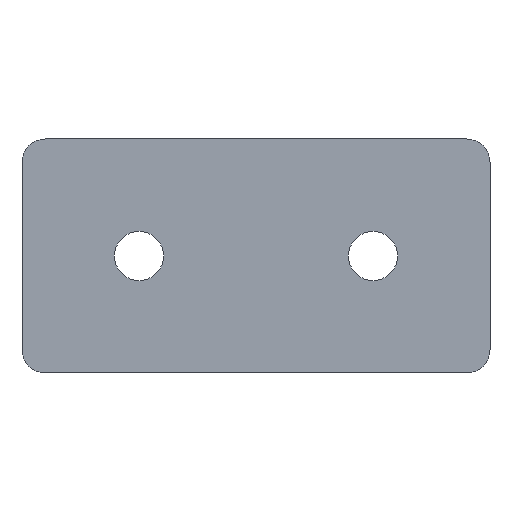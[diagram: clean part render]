
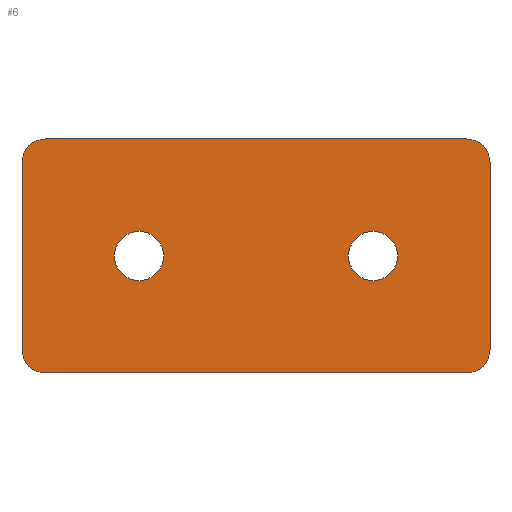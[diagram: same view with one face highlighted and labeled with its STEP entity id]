
A CAD part, front view. The second image highlights one B-rep face of the part: STEP entity #6.
In plain terms, the highlighted planar face has unit normal (0, -1, 0).
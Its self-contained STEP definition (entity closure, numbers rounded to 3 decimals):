
#1 = AXIS2_PLACEMENT_3D ( 'NONE', #63, #109, #520 ) ;
#4 = ORIENTED_EDGE ( 'NONE', *, *, #226, .F. ) ;
#6 = ADVANCED_FACE ( 'NONE', ( #590, #179, #360 ), #365, .F. ) ;
#15 = LINE ( 'NONE', #187, #562 ) ;
#16 = EDGE_CURVE ( 'NONE', #254, #351, #587, .T. ) ;
#18 = CARTESIAN_POINT ( 'NONE',  ( 15., -4., 0. ) ) ;
#19 = DIRECTION ( 'NONE',  ( 0., 1., 0. ) ) ;
#56 = AXIS2_PLACEMENT_3D ( 'NONE', #204, #565, #157 ) ;
#61 = DIRECTION ( 'NONE',  ( 0., 0., -1. ) ) ;
#63 = CARTESIAN_POINT ( 'NONE',  ( 27., -4., 12. ) ) ;
#67 = CARTESIAN_POINT ( 'NONE',  ( -30., -4., -12. ) ) ;
#74 = DIRECTION ( 'NONE',  ( 0., 0., 1. ) ) ;
#83 = CARTESIAN_POINT ( 'NONE',  ( -27., -4., 15. ) ) ;
#89 = CARTESIAN_POINT ( 'NONE',  ( -15., -4., 0. ) ) ;
#90 = VERTEX_POINT ( 'NONE', #315 ) ;
#92 = CARTESIAN_POINT ( 'NONE',  ( -27., -4., -12. ) ) ;
#102 = EDGE_CURVE ( 'NONE', #547, #393, #584, .T. ) ;
#108 = EDGE_LOOP ( 'NONE', ( #433, #585 ) ) ;
#109 = DIRECTION ( 'NONE',  ( 0., -1., 0. ) ) ;
#110 = CIRCLE ( 'NONE', #475, 3.15 ) ;
#117 = EDGE_CURVE ( 'NONE', #351, #448, #477, .T. ) ;
#129 = EDGE_LOOP ( 'NONE', ( #390, #573 ) ) ;
#133 = DIRECTION ( 'NONE',  ( 1., 0., 0. ) ) ;
#143 = DIRECTION ( 'NONE',  ( 0., -1., 0. ) ) ;
#153 = CARTESIAN_POINT ( 'NONE',  ( 15., -4., 0. ) ) ;
#157 = DIRECTION ( 'NONE',  ( 0., 0., 1. ) ) ;
#158 = ORIENTED_EDGE ( 'NONE', *, *, #312, .T. ) ;
#163 = VERTEX_POINT ( 'NONE', #553 ) ;
#171 = CIRCLE ( 'NONE', #494, 3.15 ) ;
#175 = DIRECTION ( 'NONE',  ( 0., 0., 1. ) ) ;
#177 = DIRECTION ( 'NONE',  ( 0., 0., -1. ) ) ;
#179 = FACE_BOUND ( 'NONE', #108, .T. ) ;
#184 = CARTESIAN_POINT ( 'NONE',  ( -30., -4., 15. ) ) ;
#187 = CARTESIAN_POINT ( 'NONE',  ( -30., -4., 15. ) ) ;
#191 = CIRCLE ( 'NONE', #1, 3. ) ;
#204 = CARTESIAN_POINT ( 'NONE',  ( -27., -4., 12. ) ) ;
#206 = CARTESIAN_POINT ( 'NONE',  ( -30., -4., 12. ) ) ;
#218 = AXIS2_PLACEMENT_3D ( 'NONE', #92, #143, #512 ) ;
#226 = EDGE_CURVE ( 'NONE', #513, #444, #15, .T. ) ;
#249 = VERTEX_POINT ( 'NONE', #381 ) ;
#253 = EDGE_CURVE ( 'NONE', #249, #484, #110, .T. ) ;
#254 = VERTEX_POINT ( 'NONE', #206 ) ;
#255 = AXIS2_PLACEMENT_3D ( 'NONE', #18, #339, #523 ) ;
#263 = ORIENTED_EDGE ( 'NONE', *, *, #438, .T. ) ;
#276 = DIRECTION ( 'NONE',  ( 0., -1., 0. ) ) ;
#278 = EDGE_CURVE ( 'NONE', #90, #393, #473, .T. ) ;
#281 = ORIENTED_EDGE ( 'NONE', *, *, #16, .T. ) ;
#283 = DIRECTION ( 'NONE',  ( 0., 0., 1. ) ) ;
#286 = CARTESIAN_POINT ( 'NONE',  ( 30., -4., 15. ) ) ;
#291 = VECTOR ( 'NONE', #61, 1000. ) ;
#308 = CARTESIAN_POINT ( 'NONE',  ( 15., -4., -3.15 ) ) ;
#311 = DIRECTION ( 'NONE',  ( 0., 1., 0. ) ) ;
#312 = EDGE_CURVE ( 'NONE', #513, #254, #455, .T. ) ;
#315 = CARTESIAN_POINT ( 'NONE',  ( 30., -4., 12. ) ) ;
#316 = CARTESIAN_POINT ( 'NONE',  ( -15., -4., 0. ) ) ;
#323 = CARTESIAN_POINT ( 'NONE',  ( 27., -4., -15. ) ) ;
#324 = AXIS2_PLACEMENT_3D ( 'NONE', #546, #276, #283 ) ;
#330 = EDGE_CURVE ( 'NONE', #484, #249, #515, .T. ) ;
#333 = EDGE_CURVE ( 'NONE', #90, #444, #191, .T. ) ;
#334 = DIRECTION ( 'NONE',  ( 0., 0., 1. ) ) ;
#336 = CARTESIAN_POINT ( 'NONE',  ( -15., -4., 3.15 ) ) ;
#339 = DIRECTION ( 'NONE',  ( 0., 1., 0. ) ) ;
#351 = VERTEX_POINT ( 'NONE', #67 ) ;
#353 = CARTESIAN_POINT ( 'NONE',  ( -30., -4., 15. ) ) ;
#355 = DIRECTION ( 'NONE',  ( 0., 1., 0. ) ) ;
#360 = FACE_OUTER_BOUND ( 'NONE', #490, .T. ) ;
#365 = PLANE ( 'NONE',  #508 ) ;
#371 = DIRECTION ( 'NONE',  ( 1., 0., 0. ) ) ;
#381 = CARTESIAN_POINT ( 'NONE',  ( 15., -4., 3.15 ) ) ;
#383 = VECTOR ( 'NONE', #133, 1000. ) ;
#390 = ORIENTED_EDGE ( 'NONE', *, *, #532, .T. ) ;
#393 = VERTEX_POINT ( 'NONE', #540 ) ;
#421 = EDGE_CURVE ( 'NONE', #545, #163, #171, .T. ) ;
#433 = ORIENTED_EDGE ( 'NONE', *, *, #330, .T. ) ;
#438 = EDGE_CURVE ( 'NONE', #448, #547, #580, .T. ) ;
#440 = CARTESIAN_POINT ( 'NONE',  ( -30., -4., -15. ) ) ;
#444 = VERTEX_POINT ( 'NONE', #451 ) ;
#448 = VERTEX_POINT ( 'NONE', #486 ) ;
#451 = CARTESIAN_POINT ( 'NONE',  ( 27., -4., 15. ) ) ;
#455 = CIRCLE ( 'NONE', #56, 3. ) ;
#458 = VECTOR ( 'NONE', #177, 1000. ) ;
#459 = DIRECTION ( 'NONE',  ( 0., 0., 1. ) ) ;
#463 = DIRECTION ( 'NONE',  ( 0., 1., 0. ) ) ;
#473 = LINE ( 'NONE', #286, #291 ) ;
#474 = ORIENTED_EDGE ( 'NONE', *, *, #102, .T. ) ;
#475 = AXIS2_PLACEMENT_3D ( 'NONE', #153, #19, #334 ) ;
#477 = CIRCLE ( 'NONE', #218, 3. ) ;
#478 = CIRCLE ( 'NONE', #575, 3.15 ) ;
#484 = VERTEX_POINT ( 'NONE', #308 ) ;
#486 = CARTESIAN_POINT ( 'NONE',  ( -27., -4., -15. ) ) ;
#490 = EDGE_LOOP ( 'NONE', ( #281, #579, #263, #474, #529, #503, #4, #158 ) ) ;
#494 = AXIS2_PLACEMENT_3D ( 'NONE', #89, #311, #74 ) ;
#503 = ORIENTED_EDGE ( 'NONE', *, *, #333, .T. ) ;
#508 = AXIS2_PLACEMENT_3D ( 'NONE', #184, #355, #175 ) ;
#512 = DIRECTION ( 'NONE',  ( 0., 0., 1. ) ) ;
#513 = VERTEX_POINT ( 'NONE', #83 ) ;
#515 = CIRCLE ( 'NONE', #255, 3.15 ) ;
#520 = DIRECTION ( 'NONE',  ( 0., 0., 1. ) ) ;
#523 = DIRECTION ( 'NONE',  ( 0., 0., 1. ) ) ;
#529 = ORIENTED_EDGE ( 'NONE', *, *, #278, .F. ) ;
#532 = EDGE_CURVE ( 'NONE', #163, #545, #478, .T. ) ;
#540 = CARTESIAN_POINT ( 'NONE',  ( 30., -4., -12. ) ) ;
#545 = VERTEX_POINT ( 'NONE', #336 ) ;
#546 = CARTESIAN_POINT ( 'NONE',  ( 27., -4., -12. ) ) ;
#547 = VERTEX_POINT ( 'NONE', #323 ) ;
#553 = CARTESIAN_POINT ( 'NONE',  ( -15., -4., -3.15 ) ) ;
#562 = VECTOR ( 'NONE', #371, 1000. ) ;
#565 = DIRECTION ( 'NONE',  ( 0., -1., 0. ) ) ;
#573 = ORIENTED_EDGE ( 'NONE', *, *, #421, .T. ) ;
#575 = AXIS2_PLACEMENT_3D ( 'NONE', #316, #463, #459 ) ;
#579 = ORIENTED_EDGE ( 'NONE', *, *, #117, .T. ) ;
#580 = LINE ( 'NONE', #440, #383 ) ;
#584 = CIRCLE ( 'NONE', #324, 3. ) ;
#585 = ORIENTED_EDGE ( 'NONE', *, *, #253, .T. ) ;
#587 = LINE ( 'NONE', #353, #458 ) ;
#590 = FACE_BOUND ( 'NONE', #129, .T. ) ;
